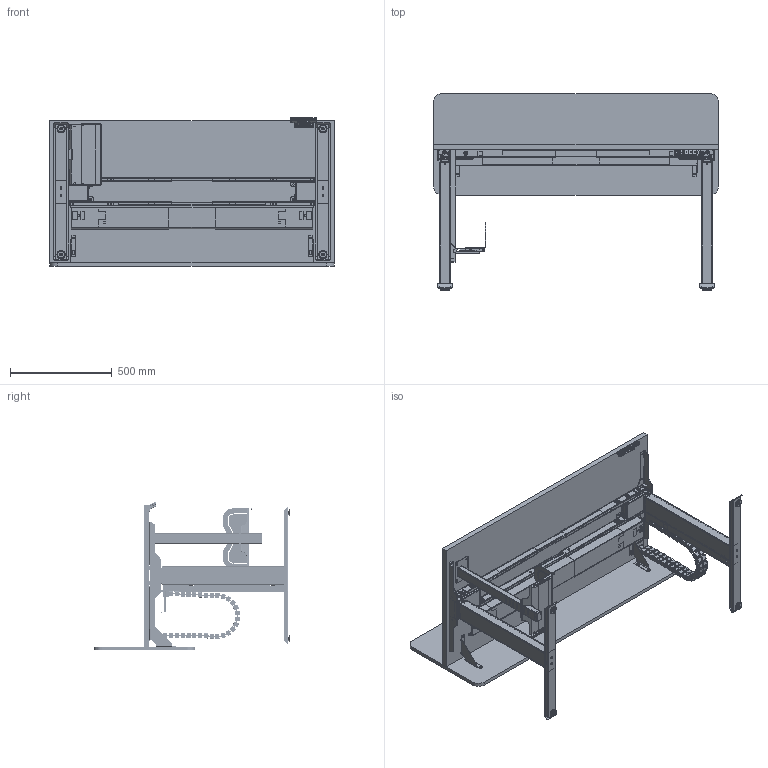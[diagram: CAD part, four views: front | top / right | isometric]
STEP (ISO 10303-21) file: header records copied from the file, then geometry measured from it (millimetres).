
FILE_DESCRIPTION (( 'STEP AP203' ), '1' );
FILE_NAME ('Mesa ACCESS Chapa Acessórios.STEP', '2025-10-06T13:52:38', ( '' ), ( '' ), 'SwSTEP 2.0', 'SolidWorks 2025', '' );
FILE_SCHEMA (( 'CONFIG_CONTROL_DESIGN' ));
Length unit declared in the file: millimetre
Products named in the file (38): 000322-1; 042182(Valor predeterminado-_flexible6); 042193; 004726(Valor predeterminado); 042165; 039424M(Valor predeterminado); 042183(Valor predeterminado); 031104M3; 041451; Mesa ACCESS Chapa Acessórios; 040605(Valor predeterminado); 021576(Ilustrativa); 000847-1; 039426; 035581(Valor predeterminado); 042165-1; 004038; 042184; 040603(Valor predeterminado); 042164-1; 042164; 042166(Valor predeterminado); Tampo 700x1400(Valor predeterminado); 042182(Valor predeterminado-_flexible5); 039424M(Valor predeterminado)-1; 002488; Esteira 30 Elos(Baixa); 042185; 039436; 042167(Valor predeterminado); Painel 500x1400x18; 039430; 040604(Valor predeterminado); 029621-1; 000322; 012728(Valor predeterminado-_flexible1); 041450M(Baixa); 040602(Valor predeterminado-_flexible3)
Assembly tree (70 placements, depth 4):
  Mesa ACCESS Chapa Acessórios
    039424M(Valor predeterminado)
      039426
      039430
      031104M3
      021576(Ilustrativa)
      004038  x8
    039424M(Valor predeterminado)-1
      039426
      039430
      031104M3
      021576(Ilustrativa)
      004038  x8
    042164
      042165
        042166(Valor predeterminado)
        042167(Valor predeterminado)
        039436
      000847-1  x2
    042164-1
      042165-1
        042166(Valor predeterminado)
        042167(Valor predeterminado)
        039436
      000847-1  x2
    042182(Valor predeterminado-_flexible5)
      042183(Valor predeterminado)
      042184
      042185
    042182(Valor predeterminado-_flexible6)
      042183(Valor predeterminado)
      042184
      042185
    041450M(Baixa)
      041451
      Esteira 30 Elos(Baixa)
    040602(Valor predeterminado-_flexible3)
      040603(Valor predeterminado)
      040604(Valor predeterminado)
      040605(Valor predeterminado)
    012728(Valor predeterminado-_flexible1)
      000322
        004726(Valor predeterminado)
      000322-1
        004726(Valor predeterminado)
    035581(Valor predeterminado)  x2
    042193
    029621-1  x4
    Tampo 700x1400(Valor predeterminado)
    Painel 500x1400x18
    002488
Bounding box: 1400 x 970 x 732.3 mm (x, y, z)
Volume: 42352153.3 mm3; surface area: 8063106.5 mm2
Topology: 112 solids, 112 shells, 8248 faces, 22372 edges, 14497 vertices
Faces by surface type: plane 4676, cylinder 2790, torus 402, bspline 243, cone 135, sphere 2
Entity records: 213381 total; most frequent: CARTESIAN_POINT 56789, ORIENTED_EDGE 32240, DIRECTION 30828, EDGE_CURVE 16120, VECTOR 11770, LINE 11770, VERTEX_POINT 10441, AXIS2_PLACEMENT_3D 9529
